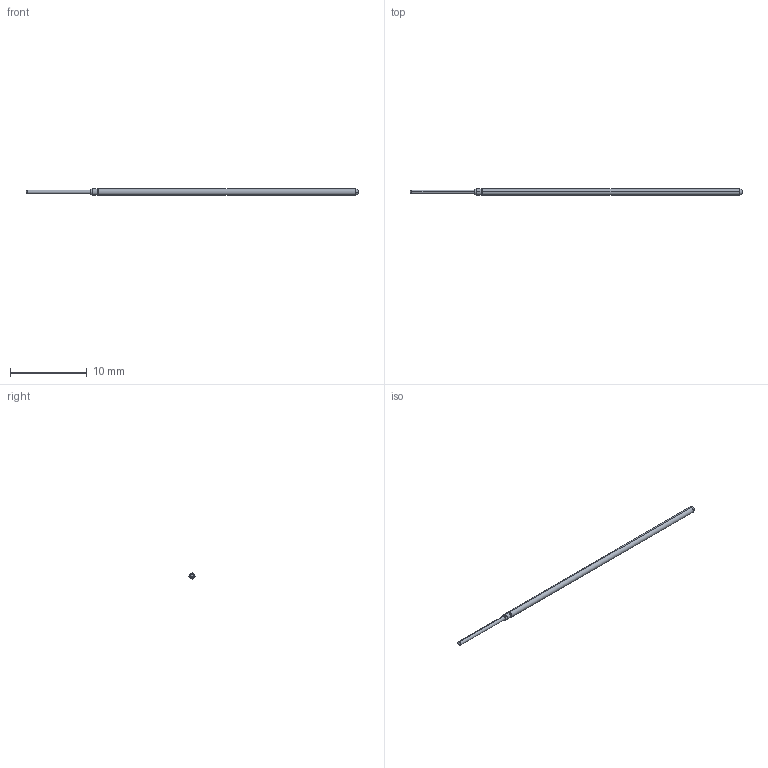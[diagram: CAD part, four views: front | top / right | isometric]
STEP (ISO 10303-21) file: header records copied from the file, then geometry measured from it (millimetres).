
FILE_DESCRIPTION (( 'STEP AP214' ), '1' );
FILE_NAME ('LPC1J.STEP', '2023-05-16T09:40:57', ( '' ), ( '' ), 'SwSTEP 2.0', 'SolidWorks 2022', '' );
FILE_SCHEMA (( 'AUTOMOTIVE_DESIGN' ));
Length unit declared in the file: inch
Products named in the file (1): LPC1J
Bounding box: 43.18 x 0.79 x 0.79 mm (x, y, z)
Volume: 18.4 mm3; surface area: 99.6 mm2
Topology: 1 solids, 1 shells, 20 faces, 44 edges, 25 vertices
Faces by surface type: bspline 18, plane 2
Entity records: 716 total; most frequent: CARTESIAN_POINT 290, ORIENTED_EDGE 84, DIRECTION 80, EDGE_CURVE 42, AXIS2_PLACEMENT_3D 35, CIRCLE 32, VERTEX_POINT 25, EDGE_LOOP 21
